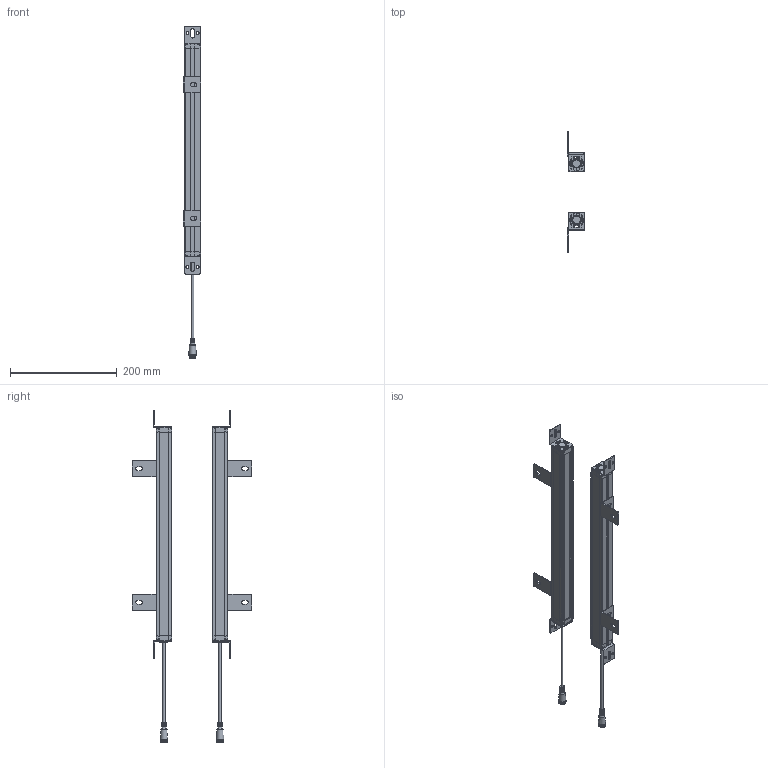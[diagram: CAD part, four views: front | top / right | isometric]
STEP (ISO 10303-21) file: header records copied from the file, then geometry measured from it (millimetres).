
FILE_DESCRIPTION(/* description */ (''),/* implementation_level */ '2;1');
FILE_NAME(/* name */ '3810（29x30）.stp',/* time_stamp */ '2023-04-28T15:33:28+08:00',/* author */ (''),/* organization */ (''),/* preprocessor_version */ 'ST-DEVELOPER v16.7',/* originating_system */ 'SIEMENS PLM Software NX 12.0',/* authorisation */ '');
FILE_SCHEMA (('AUTOMOTIVE_DESIGN { 1 0 10303 214 3 1 1 1 }'));
Products named in the file (1): 7220（29x30）_stp
Bounding box: 32.03 x 223.99 x 621 mm (x, y, z)
Volume: 279163.3 mm3; surface area: 291516.7 mm2
Topology: 34 solids, 34 shells, 1610 faces, 4267 edges, 2771 vertices
Faces by surface type: plane 750, cylinder 648, bspline 88, sphere 36, cone 36, torus 32, extrusion 20
Full cylindrical faces by diameter (mm): 1.533 x6, 4.4 x4, 9 x2, 12.5 x2
Entity records: 56427 total; most frequent: CARTESIAN_POINT 16064, DIRECTION 8330, ORIENTED_EDGE 8324, EDGE_CURVE 4162, AXIS2_PLACEMENT_3D 2918, VERTEX_POINT 2696, VECTOR 2494, LINE 2474
